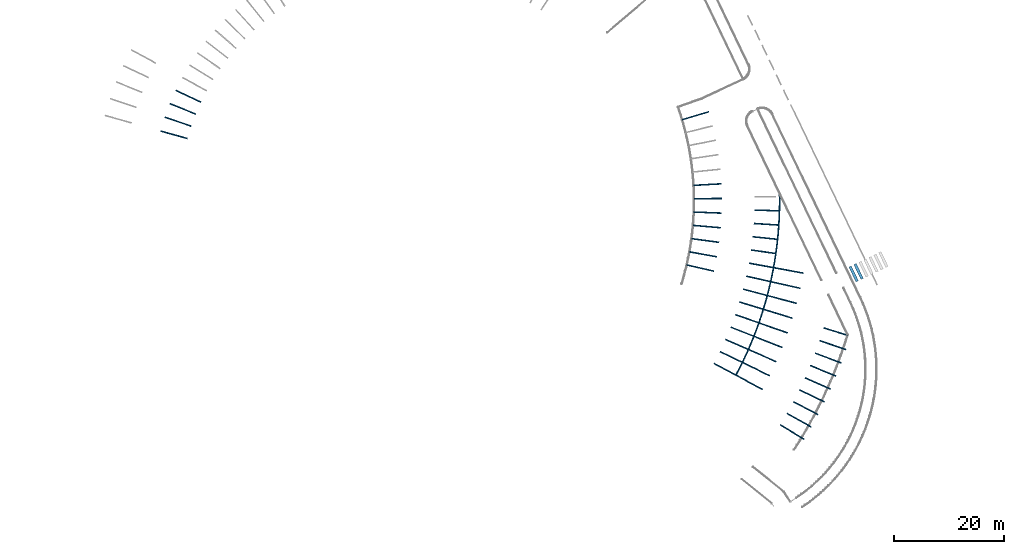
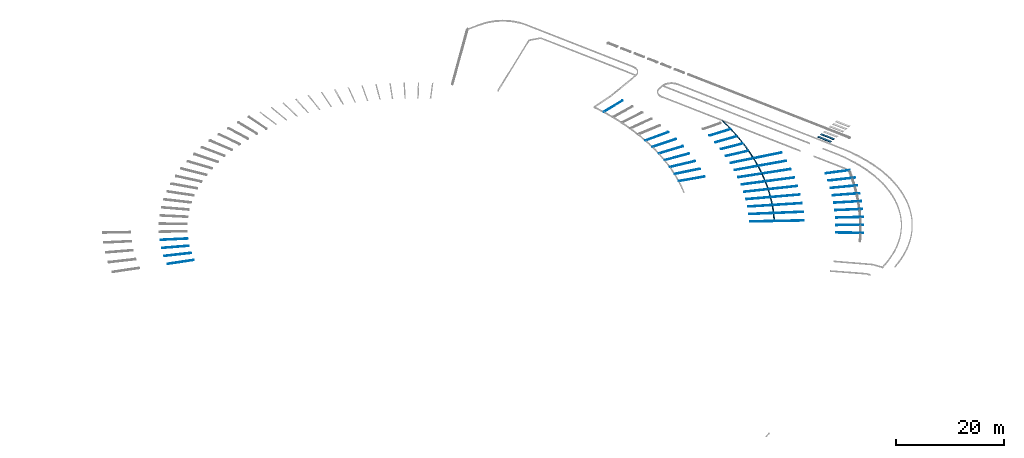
# One storey, part 90 of 157: 37 walls.
"""IFC2X3 building model written with IfcOpenShell, lengths in millimetres."""

import ifcopenshell
import ifcopenshell.guid

model = None  # the IFC model being written
_history = None  # IfcOwnerHistory: only IFC2X3 demands one
_inside = {}  # id of a spatial element -> (the spatial element, [elements in it])
_under = {}  # id of a project, library or spatial element -> (it, [spatial elements below it])
_declared = {}  # id of a project -> (the project, [libraries it declares])
_typed = {}  # id of a type object -> (the type object, [elements of that type])
_made_of = {}  # id of a material, layer set ... -> (it, [elements and type objects made of it])


def new_model(schema):
    """Start an empty IFC model of exactly this schema.

    Asked for "IFC4X3", IfcOpenShell would pick the latest addendum, in which some entities
    have other attributes; the version numbers below select the first issue.
    IFC2X3 requires an IfcOwnerHistory on every rooted entity: one is made here for all.
    """
    global model, _history
    if schema == "IFC4X3":
        model = ifcopenshell.file(schema_version=(4, 3, 0, 0))
    else:
        model = ifcopenshell.file(schema=schema)
    _inside.clear()
    _under.clear()
    _declared.clear()
    _typed.clear()
    _made_of.clear()
    _history = None
    if model.schema == "IFC2X3":
        org = make("IfcOrganization", Name="unknown")
        user = make(
            "IfcPersonAndOrganization",
            ThePerson=make("IfcPerson", FamilyName="unknown"),
            TheOrganization=org,
        )
        app = make(
            "IfcApplication",
            ApplicationDeveloper=org,
            Version="unknown",
            ApplicationFullName="unknown",
            ApplicationIdentifier="unknown",
        )
        _history = make(
            "IfcOwnerHistory",
            OwningUser=user,
            OwningApplication=app,
            ChangeAction="ADDED",
            CreationDate=0,
        )
    return model


def make(cls, **values):
    """One entity of the class cls with the attributes given. An attribute that is None is left unset."""
    return model.create_entity(
        cls, **{name: value for name, value in values.items() if value is not None}
    )


def entity(cls, *values):
    """Any entity or typed value of the class cls, its attributes in the order of the schema. None: left unset."""
    e = model.create_entity(cls)
    for i, value in enumerate(values):
        if value is not None:
            e[i] = value
    return e


def rooted(cls, **values):
    """An entity with a GlobalId (a new one), such as an element, a storey or a relation."""
    return make(cls, GlobalId=ifcopenshell.guid.new(), OwnerHistory=_history, **values)


def si_unit(unit_type, name, prefix=None):
    """IfcSIUnit, for example si_unit("LENGTHUNIT", "METRE", prefix="MILLI")."""
    return make("IfcSIUnit", UnitType=unit_type, Prefix=prefix, Name=name)


def converted_unit(unit_type, name, factor, base, dimensions=None, offset=None):
    """IfcConversionBasedUnit, such as the inch: factor (a typed value) times the base unit."""
    return make(
        "IfcConversionBasedUnit"
        if offset is None
        else "IfcConversionBasedUnitWithOffset",
        ConversionOffset=offset,
        Dimensions=None
        if dimensions is None
        else entity("IfcDimensionalExponents", *dimensions),
        UnitType=unit_type,
        Name=name,
        ConversionFactor=make(
            "IfcMeasureWithUnit", ValueComponent=factor, UnitComponent=base
        ),
    )


def derived_unit(unit_type, elements):
    """IfcDerivedUnit: a product of units, each with its exponent."""
    return make(
        "IfcDerivedUnit",
        Elements=[
            make("IfcDerivedUnitElement", Unit=unit, Exponent=power)
            for unit, power in elements
        ],
        UnitType=unit_type,
    )


def assignment(units):
    """IfcUnitAssignment: the units of a project."""
    return None if units is None else make("IfcUnitAssignment", Units=units)


def point(xyz):
    """IfcCartesianPoint."""
    return None if xyz is None else make("IfcCartesianPoint", Coordinates=xyz)


def direction(xyz):
    """IfcDirection."""
    return None if xyz is None else make("IfcDirection", DirectionRatios=xyz)


def frame(location, z_axis=None, x_axis=None):
    """IfcAxis2Placement3D, a coordinate frame: its origin and axes. An axis left out is left unset."""
    return make(
        "IfcAxis2Placement3D",
        Location=point(location),
        Axis=direction(z_axis),
        RefDirection=direction(x_axis),
    )


def frame_2d(location, x_axis=None):
    """IfcAxis2Placement2D, a coordinate frame in the plane: its origin and x axis."""
    return make(
        "IfcAxis2Placement2D", Location=point(location), RefDirection=direction(x_axis)
    )


def origin():
    """The frame at (0, 0, 0) with its axes left unset."""
    return frame((0.0, 0.0, 0.0))


def origin_2d_with_axis():
    """The frame at (0, 0) in the plane with the x axis (1, 0) written out."""
    return frame_2d((0.0, 0.0), x_axis=(1.0, 0.0))


def place(relative_to, where):
    """IfcLocalPlacement: puts the frame where relative to a parent placement (None: the world)."""
    return make(
        "IfcLocalPlacement", PlacementRelTo=relative_to, RelativePlacement=where
    )


def context(
    kind, dimensions, precision=None, world=None, true_north=None, identifier=None
):
    """IfcGeometricRepresentationContext, for example the 3D "Model" context."""
    return make(
        "IfcGeometricRepresentationContext",
        ContextIdentifier=identifier,
        ContextType=kind,
        CoordinateSpaceDimension=dimensions,
        Precision=precision,
        WorldCoordinateSystem=world,
        TrueNorth=true_north,
    )


def subcontext(parent, identifier, kind, view, scale=None):
    """IfcGeometricRepresentationSubContext, for example "Body" below "Model"."""
    return make(
        "IfcGeometricRepresentationSubContext",
        ContextIdentifier=identifier,
        ContextType=kind,
        ParentContext=parent,
        TargetScale=scale,
        TargetView=view,
    )


def project(units=None, contexts=None):
    """IfcProject with its units and contexts."""
    return rooted(
        "IfcProject",
        Name="project",
        RepresentationContexts=contexts,
        UnitsInContext=assignment(units),
    )


def spatial(cls, under=None, at=None, **own):
    """A site, building, storey or space (cls), placed at a placement, below another one or the project."""
    s = rooted(cls, ObjectPlacement=at, **own)
    if under is not None:
        _under.setdefault(under.id(), (under, []))[1].append(s)
    return s


def polyline(points):
    """IfcPolyline through the points."""
    return make("IfcPolyline", Points=[point(p) for p in points])


def circle_curve(where, radius):
    """IfcCircle in the frame where."""
    return make("IfcCircle", Position=where, Radius=radius)


def parameter(value):
    """IfcParameterValue: where a trimmed curve begins or ends, as a parameter of its basis curve."""
    return model.create_entity("IfcParameterValue", value)


def trimmed(basis, trim1, trim2, sense, master):
    """IfcTrimmedCurve: the piece of a basis curve between two trims."""
    return make(
        "IfcTrimmedCurve",
        BasisCurve=basis,
        Trim1=trim1,
        Trim2=trim2,
        SenseAgreement=sense,
        MasterRepresentation=master,
    )


def segment(curve, same_sense, transition):
    """IfcCompositeCurveSegment."""
    return make(
        "IfcCompositeCurveSegment",
        Transition=transition,
        SameSense=same_sense,
        ParentCurve=curve,
    )


def composite_curve(segments, self_intersect=None):
    """IfcCompositeCurve: segments joined end to end."""
    return make("IfcCompositeCurve", Segments=segments, SelfIntersect=self_intersect)


def profile(cls, at=None, kind="AREA", **sizes):
    """A parametric profile (cls). Its sizes go by their IFC names, for example OverallWidth=200.0."""
    return make(cls, ProfileType=kind, Position=at, **sizes)


def rectangle(**sizes):
    """IfcRectangleProfileDef."""
    return profile("IfcRectangleProfileDef", **sizes)


def outline(outer, holes=None, kind="AREA"):
    """IfcArbitraryClosedProfileDef: a profile drawn as a closed curve; with holes, ...WithVoids."""
    if holes is None:
        return make("IfcArbitraryClosedProfileDef", ProfileType=kind, OuterCurve=outer)
    return make(
        "IfcArbitraryProfileDefWithVoids",
        ProfileType=kind,
        OuterCurve=outer,
        InnerCurves=holes,
    )


def extrude(swept, where, along, depth):
    """IfcExtrudedAreaSolid: the profile swept, set in the frame where, extruded along a direction by depth."""
    return make(
        "IfcExtrudedAreaSolid",
        SweptArea=swept,
        Position=where,
        ExtrudedDirection=direction(along),
        Depth=depth,
    )


def shape(context_of_items, identifier, shape_type, items):
    """IfcShapeRepresentation: the items that make up one representation, for example the "Body"."""
    return make(
        "IfcShapeRepresentation",
        ContextOfItems=context_of_items,
        RepresentationIdentifier=identifier,
        RepresentationType=shape_type,
        Items=items,
    )


def material(Name=None, Category=None):
    """IfcMaterial."""
    return make("IfcMaterial", Name=Name, Category=Category)


def made_of(thing, what):
    """Note that an element or type object is made of a material, layer set ...; save() writes the relation."""
    if what is not None:
        _made_of.setdefault(what.id(), (what, []))[1].append(thing)
    return thing


def type_object(cls, material=None, **own):
    """A type object (cls), such as IfcWallType, which elements share."""
    return made_of(rooted(cls, **own), material)


def element(
    cls,
    number,
    at=None,
    inside=None,
    cuts=None,
    type_object=None,
    material=None,
    context=None,
    identifier="Body",
    shape_type=None,
    held_by="IfcProductDefinitionShape",
    body=None,
    shapes=None,
    **own,
):
    """One element of the class cls, such as IfcWall. Its Tag is "e" and its number.

    at: its placement. inside: the storey or other place that contains it. cuts: it is an
    opening in that element (IfcRelVoidsElement). A single representation is given by context,
    identifier, shape_type and body (its items); several are given by shapes. held_by: the class
    of the entity that holds the representations. save() writes the other relations.
    """
    e = rooted(cls, Tag="e%d" % number, ObjectPlacement=at, **own)
    if body is not None:
        shapes = [shape(context, identifier, shape_type, body)]
    if shapes is not None:
        e.Representation = make(held_by, Representations=shapes)
    if inside is not None:
        _inside.setdefault(inside.id(), (inside, []))[1].append(e)
    if cuts is not None:
        rooted(
            "IfcRelVoidsElement", RelatingBuildingElement=cuts, RelatedOpeningElement=e
        )
    if type_object is not None:
        _typed.setdefault(type_object.id(), (type_object, []))[1].append(e)
    return made_of(e, material)


def aggregate(whole, parts):
    """IfcRelAggregates: a whole, such as a stair, and the parts it consists of."""
    return rooted("IfcRelAggregates", RelatingObject=whole, RelatedObjects=parts)


def save(model, path):
    """Write the relations noted so far, then the file.

    IfcRelAggregates (storeys below a building ...), IfcRelContainedInSpatialStructure (elements
    in a storey), IfcRelDefinesByType, IfcRelAssociatesMaterial and IfcRelDeclares: one each for
    every whole, place, type object, material and project.
    """
    for whole, parts in _under.values():
        aggregate(whole, parts)
    for where, things in _inside.values():
        rooted(
            "IfcRelContainedInSpatialStructure",
            RelatedElements=things,
            RelatingStructure=where,
        )
    for kind, things in _typed.values():
        rooted("IfcRelDefinesByType", RelatedObjects=things, RelatingType=kind)
    for what, things in _made_of.values():
        rooted("IfcRelAssociatesMaterial", RelatedObjects=things, RelatingMaterial=what)
    for by, libraries in _declared.values():
        rooted("IfcRelDeclares", RelatingContext=by, RelatedDefinitions=libraries)
    model.write(path)


model = new_model("IFC2X3")

# Units and contexts
model_context = context("Model", 3, precision=0.01, world=origin(), true_north=direction((6.123031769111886e-17, 1.0)))
body_context = subcontext(model_context, "Body", "Model", "MODEL_VIEW")
ifc_project = project(units=[si_unit("LENGTHUNIT", "METRE", prefix="MILLI"), si_unit("AREAUNIT", "SQUARE_METRE"), si_unit("VOLUMEUNIT", "CUBIC_METRE"), converted_unit("PLANEANGLEUNIT", "DEGREE", entity("IfcRatioMeasure", 0.017453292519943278), si_unit("PLANEANGLEUNIT", "RADIAN"), dimensions=[0, 0, 0, 0, 0, 0, 0]), si_unit("MASSUNIT", "GRAM", prefix="KILO"), derived_unit("MASSDENSITYUNIT", [(si_unit("MASSUNIT", "GRAM", prefix="KILO"), 1), (si_unit("LENGTHUNIT", "METRE"), -3)]), derived_unit("MOMENTOFINERTIAUNIT", [(si_unit("LENGTHUNIT", "METRE"), 4)]), si_unit("TIMEUNIT", "SECOND"), si_unit("FREQUENCYUNIT", "HERTZ"), si_unit("THERMODYNAMICTEMPERATUREUNIT", "DEGREE_CELSIUS"), derived_unit("THERMALTRANSMITTANCEUNIT", [(si_unit("MASSUNIT", "GRAM", prefix="KILO"), 1), (si_unit("THERMODYNAMICTEMPERATUREUNIT", "KELVIN"), -1), (si_unit("TIMEUNIT", "SECOND"), -3)]), derived_unit("THERMALCONDUCTANCEUNIT", [(si_unit("MASSUNIT", "GRAM", prefix="KILO"), 1), (si_unit("LENGTHUNIT", "METRE"), 1), (si_unit("THERMODYNAMICTEMPERATUREUNIT", "KELVIN"), -1), (si_unit("TIMEUNIT", "SECOND"), -3)]), derived_unit("VOLUMETRICFLOWRATEUNIT", [(si_unit("LENGTHUNIT", "METRE"), 3), (si_unit("TIMEUNIT", "SECOND"), -1)]), derived_unit("MASSFLOWRATEUNIT", [(si_unit("MASSUNIT", "GRAM", prefix="KILO"), 1), (si_unit("TIMEUNIT", "SECOND"), -1)]), derived_unit("ROTATIONALFREQUENCYUNIT", [(si_unit("TIMEUNIT", "SECOND"), -1)]), si_unit("ELECTRICCURRENTUNIT", "AMPERE"), si_unit("ELECTRICVOLTAGEUNIT", "VOLT"), si_unit("POWERUNIT", "WATT"), converted_unit("FORCEUNIT", "KIP", entity("IfcRatioMeasure", 2.088543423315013e-05), si_unit("FORCEUNIT", "NEWTON"), dimensions=[1, 1, -2, 0, 0, 0, 0]), si_unit("ILLUMINANCEUNIT", "LUX"), si_unit("LUMINOUSFLUXUNIT", "LUMEN"), si_unit("LUMINOUSINTENSITYUNIT", "CANDELA"), derived_unit("USERDEFINED", [(si_unit("MASSUNIT", "GRAM", prefix="KILO"), -1), (si_unit("LENGTHUNIT", "METRE"), -2), (si_unit("TIMEUNIT", "SECOND"), 3), (si_unit("LUMINOUSFLUXUNIT", "LUMEN"), 1)]), derived_unit("USERDEFINED", [(si_unit("MASSUNIT", "GRAM", prefix="KILO"), 1), (si_unit("LENGTHUNIT", "METRE"), 3), (si_unit("TIMEUNIT", "SECOND"), -3), (si_unit("ELECTRICCURRENTUNIT", "AMPERE"), -2)]), derived_unit("USERDEFINED", [(si_unit("LENGTHUNIT", "METRE"), 2), (si_unit("TIMEUNIT", "SECOND"), -2)]), derived_unit("SOUNDPOWERUNIT", [(si_unit("MASSUNIT", "GRAM", prefix="KILO"), 1), (si_unit("LENGTHUNIT", "METRE"), 2), (si_unit("TIMEUNIT", "SECOND"), -3)]), derived_unit("SOUNDPRESSUREUNIT", [(si_unit("MASSUNIT", "GRAM", prefix="KILO"), 1), (si_unit("LENGTHUNIT", "METRE"), -1), (si_unit("TIMEUNIT", "SECOND"), -2)]), derived_unit("LINEARVELOCITYUNIT", [(si_unit("LENGTHUNIT", "METRE"), 1), (si_unit("TIMEUNIT", "SECOND"), -1)]), si_unit("PRESSUREUNIT", "PASCAL"), derived_unit("USERDEFINED", [(si_unit("LENGTHUNIT", "METRE"), -2), (si_unit("MASSUNIT", "GRAM", prefix="KILO"), 1), (si_unit("TIMEUNIT", "SECOND"), -2)]), derived_unit("LINEARFORCEUNIT", [(si_unit("MASSUNIT", "GRAM", prefix="KILO"), 1), (si_unit("LENGTHUNIT", "METRE"), 1), (si_unit("TIMEUNIT", "SECOND"), -2), (si_unit("LENGTHUNIT", "METRE"), -1)]), derived_unit("PLANARFORCEUNIT", [(si_unit("MASSUNIT", "GRAM", prefix="KILO"), 1), (si_unit("LENGTHUNIT", "METRE"), 1), (si_unit("TIMEUNIT", "SECOND"), -2), (si_unit("LENGTHUNIT", "METRE"), -2)]), derived_unit("SPECIFICHEATCAPACITYUNIT", [(si_unit("LENGTHUNIT", "METRE"), 2), (si_unit("TIMEUNIT", "SECOND"), -2), (si_unit("THERMODYNAMICTEMPERATUREUNIT", "KELVIN"), -1)]), derived_unit("VAPORPERMEABILITYUNIT", [(si_unit("TIMEUNIT", "SECOND"), 1), (si_unit("LENGTHUNIT", "METRE"), -1)]), derived_unit("DYNAMICVISCOSITYUNIT", [(si_unit("MASSUNIT", "GRAM", prefix="KILO"), 1), (si_unit("LENGTHUNIT", "METRE"), -1), (si_unit("TIMEUNIT", "SECOND"), -1)]), derived_unit("THERMALEXPANSIONCOEFFICIENTUNIT", [(si_unit("THERMODYNAMICTEMPERATUREUNIT", "KELVIN"), -1)])], contexts=[model_context])

# Site, building, storey
site_placement = place(None, frame((0.0, 0.0, 0.0), z_axis=(0.0, 0.0, 1.0), x_axis=(0.8191520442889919, 0.5735764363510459, 0.0)))
site = spatial("IfcSite", under=ifc_project, at=site_placement, Name="Default", CompositionType="ELEMENT")
building_placement = place(site_placement, origin())
building = spatial("IfcBuilding", under=site, at=building_placement, CompositionType="ELEMENT")
storey_placement = place(building_placement, origin())
storey = spatial("IfcBuildingStorey", under=building, at=storey_placement, Name="1.EG +0.00", CompositionType="ELEMENT", Elevation=-4.331468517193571e-12)

# Walls
ifc_material = material(Name="road_markirovka")
wall_type_1 = type_object("IfcWallType", Name="87", PredefinedType="NOTDEFINED", material=ifc_material)
wall_1_placement = place(storey_placement, frame((-70206.27636311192, -35537.50570777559, 400.0), z_axis=(0.0, 0.0, 1.0), x_axis=(0.0, 1.0, 0.0)))
element("IfcWall", 1, at=wall_1_placement, inside=storey, type_object=wall_type_1, material=ifc_material, Name="87:87", ObjectType="87:87", context=body_context, shape_type="SweptSolid", body=[
    extrude(rectangle(XDim=199.99999999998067, YDim=5000.0000000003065, at=frame_2d((-1.4850343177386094e-12, -1.5916157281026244e-12), x_axis=(1.0, 0.0))), frame((1996.3656750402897, -1662.788291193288, 0.0), z_axis=(0.0, 0.0, 1.0), x_axis=(0.6341881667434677, -0.7731787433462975, 0.0)), (0.0, 0.0, 1.0), 9.999999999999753),
])
wall_type_2 = type_object("IfcWallType", Name="84", PredefinedType="NOTDEFINED", material=ifc_material)
wall_2_placement = place(storey_placement, frame((-63741.66590821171, -31538.287492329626, 400.0), z_axis=(0.0, 0.0, 1.0), x_axis=(0.0, 1.0, 0.0)))
element("IfcWall", 2, at=wall_2_placement, inside=storey, type_object=wall_type_2, material=ifc_material, Name="84:84", ObjectType="84:84", context=body_context, shape_type="SweptSolid", body=[
    extrude(rectangle(XDim=199.99999999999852, YDim=5000.000000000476, at=frame_2d((1.0871303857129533e-12, 1.8189894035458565e-12), x_axis=(1.0, 0.0))), frame((2219.819776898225, -1327.9104421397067, 0.0), z_axis=(0.0, 0.0, 1.0), x_axis=(0.4964413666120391, -0.8680702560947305, 0.0)), (0.0, 0.0, 1.0), 9.999999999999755),
])
wall_type_3 = type_object("IfcWallType", Name="86", PredefinedType="NOTDEFINED", material=ifc_material)
wall_3_placement = place(storey_placement, frame((-68135.81142621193, -34097.59784832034, 400.0), z_axis=(0.0, 0.0, 1.0), x_axis=(0.0, 1.0, 0.0)))
element("IfcWall", 3, at=wall_3_placement, inside=storey, type_object=wall_type_3, material=ifc_material, Name="86:86", ObjectType="86:86", context=body_context, shape_type="SweptSolid", body=[
    extrude(rectangle(XDim=200.00000000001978, YDim=5000.0000000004, at=frame_2d((-3.517186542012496e-12, 2.5011104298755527e-12), x_axis=(1.0, 0.0))), frame((2077.399309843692, -1555.8932232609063, 0.0), z_axis=(0.0, 0.0, 1.0), x_axis=(0.5900630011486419, -0.8073572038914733, 0.0)), (0.0, 0.0, 1.0), 9.999999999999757),
])
wall_type_4 = type_object("IfcWallType", Name="86", PredefinedType="NOTDEFINED", material=ifc_material)
wall_4_placement = place(storey_placement, frame((7846.057088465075, -133540.67406010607, 450.0), z_axis=(0.0, 0.0, 1.0), x_axis=(0.0, 1.0, 0.0)))
element("IfcWall", 4, at=wall_4_placement, inside=storey, type_object=wall_type_4, material=ifc_material, Name="86 203221:86 203221", ObjectType="86 203221:86 203221", context=body_context, shape_type="SweptSolid", body=[
    extrude(rectangle(XDim=199.99999999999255, YDim=4574.509043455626, at=frame_2d((8.739675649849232e-13, -6.821210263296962e-13), x_axis=(1.0, 0.0))), frame((1865.7149275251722, -1484.6573900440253, 0.0), z_axis=(0.0, 0.0, 1.0), x_axis=(0.6146121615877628, -0.788829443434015, 0.0)), (0.0, 0.0, 1.0), 9.999999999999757),
])
wall_type_5 = type_object("IfcWallType", Name="95", PredefinedType="NOTDEFINED", material=ifc_material)
wall_5_placement = place(storey_placement, frame((2037.8307186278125, -100073.11718111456, 450.0)))
element("IfcWall", 5, at=wall_5_placement, inside=storey, type_object=wall_type_5, material=ifc_material, Name="95:95", ObjectType="95:95", context=body_context, shape_type="SweptSolid", body=[
    extrude(rectangle(XDim=200.0000000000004, YDim=4999.999999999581, at=frame_2d((-7.034373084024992e-12, -5.229594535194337e-12), x_axis=(1.0, 0.0))), frame((2115.774671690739, 1500.2014102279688, 0.0), z_axis=(0.0, 0.0, 1.0), x_axis=(0.5671355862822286, 0.8236244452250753, 0.0)), (0.0, 0.0, 1.0), 9.999999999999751),
])
wall_type_6 = type_object("IfcWallType", Name="96", PredefinedType="NOTDEFINED", material=ifc_material)
wall_6_placement = place(storey_placement, frame((3368.7482403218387, -97851.19907409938, 450.0)))
element("IfcWall", 6, at=wall_6_placement, inside=storey, type_object=wall_type_6, material=ifc_material, Name="96:96", ObjectType="96:96", context=body_context, shape_type="SweptSolid", body=[
    extrude(rectangle(XDim=199.9999999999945, YDim=4999.999999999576, at=frame_2d((-6.636469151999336e-12, -5.4569682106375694e-12), x_axis=(1.0, 0.0))), frame((2176.254035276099, 1404.349099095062, 0.0), z_axis=(0.0, 0.0, 1.0), x_axis=(0.5277639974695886, 0.8493910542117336, 0.0)), (0.0, 0.0, 1.0), 9.999999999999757),
])
wall_type_7 = type_object("IfcWallType", Name="94", PredefinedType="NOTDEFINED", material=ifc_material)
wall_7_placement = place(storey_placement, frame((613.1265773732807, -102223.90809039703, 450.0)))
element("IfcWall", 7, at=wall_7_placement, inside=storey, type_object=wall_type_7, material=ifc_material, Name="94:94", ObjectType="94:94", context=body_context, shape_type="SweptSolid", body=[
    extrude(rectangle(XDim=200.00000000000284, YDim=4999.999999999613, at=frame_2d((7.034373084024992e-12, 5.002220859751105e-12), x_axis=(1.0, 0.0))), frame((2050.610898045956, 1592.7322152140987, 0.0), z_axis=(0.0, 0.0, 1.0), x_axis=(0.6052515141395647, 0.7960342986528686, 0.0)), (0.0, 0.0, 1.0), 9.999999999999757),
])
wall_type_8 = type_object("IfcWallType", Name="93", PredefinedType="NOTDEFINED", material=ifc_material)
wall_8_placement = place(storey_placement, frame((-902.2098312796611, -104298.80986453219, 450.0)))
element("IfcWall", 8, at=wall_8_placement, inside=storey, type_object=wall_type_8, material=ifc_material, Name="93:93", ObjectType="93:93", context=body_context, shape_type="SweptSolid", body=[
    extrude(rectangle(XDim=200.00000000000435, YDim=4999.999999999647, at=frame_2d((-4.945377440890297e-12, -7.503331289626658e-12), x_axis=(1.0, 0.0))), frame((1980.906989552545, 1681.7366471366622, 0.0), z_axis=(0.0, 0.0, 1.0), x_axis=(0.6420273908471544, 0.7666817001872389, 0.0)), (0.0, 0.0, 1.0), 9.999999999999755),
])
wall_type_9 = type_object("IfcWallType", Name="92", PredefinedType="NOTDEFINED", material=ifc_material)
wall_9_placement = place(storey_placement, frame((-2504.8234916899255, -106293.22858769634, 450.0)))
element("IfcWall", 9, at=wall_9_placement, inside=storey, type_object=wall_type_9, material=ifc_material, Name="92:92", ObjectType="92:92", context=body_context, shape_type="SweptSolid", body=[
    extrude(rectangle(XDim=199.9999999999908, YDim=4999.9999999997, at=frame_2d((-3.517186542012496e-12, -8.86757334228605e-12), x_axis=(1.0, 0.0))), frame((1906.8172734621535, 1767.0176466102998, 0.0), z_axis=(0.0, 0.0, 1.0), x_axis=(0.6773817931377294, 0.7356316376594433, 0.0)), (0.0, 0.0, 1.0), 9.999999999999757),
])
wall_type_10 = type_object("IfcWallType", Name="91", PredefinedType="NOTDEFINED", material=ifc_material)
wall_10_placement = place(storey_placement, frame((-4191.166152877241, -108202.74853677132, 450.0), z_axis=(0.0, 0.0, 1.0), x_axis=(0.0, 1.0, 0.0)))
element("IfcWall", 10, at=wall_10_placement, inside=storey, type_object=wall_type_10, material=ifc_material, Name="91:91", ObjectType="91:91", context=body_context, shape_type="SweptSolid", body=[
    extrude(rectangle(XDim=199.99999999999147, YDim=4999.99999999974, at=frame_2d((-1.0828671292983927e-11, -1.3415046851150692e-11), x_axis=(1.0, 0.0))), frame((1848.3863980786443, -1828.5057873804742, 0.0), z_axis=(0.0, 0.0, 1.0), x_axis=(0.7029528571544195, -0.7112364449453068, 0.0)), (0.0, 0.0, 1.0), 9.999999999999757),
])
wall_type_11 = type_object("IfcWallType", Name="90", PredefinedType="NOTDEFINED", material=ifc_material)
wall_11_placement = place(storey_placement, frame((-5957.504184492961, -110023.14195793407, 450.0), z_axis=(0.0, 0.0, 1.0), x_axis=(0.0, 1.0, 0.0)))
element("IfcWall", 11, at=wall_11_placement, inside=storey, type_object=wall_type_11, material=ifc_material, Name="90:90", ObjectType="90:90", context=body_context, shape_type="SweptSolid", body=[
    extrude(rectangle(XDim=199.99999999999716, YDim=4999.999999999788, at=frame_2d((4.604316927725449e-12, 7.503331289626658e-12), x_axis=(1.0, 0.0))), frame((1925.6627478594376, -1746.1459160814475, 0.0), z_axis=(0.0, 0.0, 1.0), x_axis=(0.6687177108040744, -0.7435163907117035, 0.0)), (0.0, 0.0, 1.0), 9.999999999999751),
])
wall_type_12 = type_object("IfcWallType", Name="00", PredefinedType="NOTDEFINED", material=ifc_material)
wall_12_placement = place(storey_placement, frame((-10062.809167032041, -127769.2934301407, 410.0)))
element("IfcWall", 12, at=wall_12_placement, inside=storey, type_object=wall_type_12, material=ifc_material, Name="00:00", ObjectType="00:00", context=body_context, shape_type="SweptSolid", body=[
    extrude(outline(composite_curve([segment(polyline([(-4391.9522964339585, -16405.48534310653), (-4191.952296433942, -16405.485343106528)]), True, "CONTINUOUS"), segment(trimmed(circle_curve(frame_2d((62708.04770356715, -16405.485342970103), x_axis=(-1.0, 0.0)), 66900.00000000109), [parameter(330.6782123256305)], [parameter(0.0)], True, "PARAMETER"), False, "CONTINUOUS"), segment(polyline([(4379.067406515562, 16356.383613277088), (4204.837186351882, 16454.58707293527)]), True, "CONTINUOUS"), segment(trimmed(circle_curve(frame_2d((62708.04770356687, -16405.48534297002), x_axis=(-0.8718809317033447, 0.48971791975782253)), 67100.00000000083), [parameter(359.99999999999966)], [parameter(29.322042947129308)], True, "PARAMETER"), True, "CONTINUOUS")], self_intersect=False)), frame((12771.067709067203, 11346.693604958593, 0.0), z_axis=(0.0, 0.0, 1.0), x_axis=(-0.8315261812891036, 0.5554855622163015, 0.0)), (0.0, 0.0, 1.0), 9.999999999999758),
])
wall_type_13 = type_object("IfcWallType", Name="87", PredefinedType="NOTDEFINED", material=ifc_material)
wall_13_placement = place(storey_placement, frame((-12184.371040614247, -132677.5910654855, 410.0), z_axis=(0.0, 0.0, 1.0), x_axis=(0.0, 1.0, 0.0)))
element("IfcWall", 13, at=wall_13_placement, inside=storey, type_object=wall_type_13, material=ifc_material, Name="87 206443:87 206443", ObjectType="87 206443:87 206443", context=body_context, shape_type="SweptSolid", body=[
    extrude(rectangle(XDim=199.99999999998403, YDim=10000.000004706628, at=origin_2d_with_axis()), frame((4506.186165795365, -2347.377587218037, 0.0), z_axis=(0.0, 0.0, 1.0), x_axis=(0.45163142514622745, -0.8922046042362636, 0.0)), (0.0, 0.0, 1.0), 9.999999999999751),
])
wall_type_14 = type_object("IfcWallType", Name="98", PredefinedType="NOTDEFINED", material=ifc_material)
wall_14_placement = place(storey_placement, frame((9836.609502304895, -107854.50099705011, 410.0)))
element("IfcWall", 14, at=wall_14_placement, inside=storey, type_object=wall_type_14, material=ifc_material, Name="98 206450:98 206450", ObjectType="98 206450:98 206450", context=body_context, shape_type="SweptSolid", body=[
    extrude(rectangle(XDim=199.99999999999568, YDim=4399.925261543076, at=frame_2d((-5.6843418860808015e-12, -6.821210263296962e-12), x_axis=(1.0, 0.0))), frame((1827.1841175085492, 1390.0209054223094, 0.0), z_axis=(0.0, 0.0, 1.0), x_axis=(0.595315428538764, 0.8034920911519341, 0.0)), (0.0, 0.0, 1.0), 9.999999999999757),
])
wall_type_15 = type_object("IfcWallType", Name="96", PredefinedType="NOTDEFINED", material=ifc_material)
wall_15_placement = place(storey_placement, frame((6802.270299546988, -111888.01418344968, 410.0)))
element("IfcWall", 15, at=wall_15_placement, inside=storey, type_object=wall_type_15, material=ifc_material, Name="96 206502:96 206502", ObjectType="96 206502:96 206502", context=body_context, shape_type="SweptSolid", body=[
    extrude(rectangle(XDim=200.0000000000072, YDim=4399.925261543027, at=frame_2d((-4.945377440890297e-12, 5.6843418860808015e-12), x_axis=(1.0, 0.0))), frame((1726.6260871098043, 1517.9745395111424, 0.0), z_axis=(0.0, 0.0, 1.0), x_axis=(0.6556795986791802, 0.7550392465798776, 0.0)), (0.0, 0.0, 1.0), 9.999999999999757),
])
wall_type_16 = type_object("IfcWallType", Name="97", PredefinedType="NOTDEFINED", material=ifc_material)
wall_16_placement = place(storey_placement, frame((8355.91042960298, -109902.69116973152, 410.0)))
element("IfcWall", 16, at=wall_16_placement, inside=storey, type_object=wall_type_16, material=ifc_material, Name="97 206506:97 206506", ObjectType="97 206506:97 206506", context=body_context, shape_type="SweptSolid", body=[
    extrude(rectangle(XDim=200.00000000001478, YDim=4399.92526154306, at=frame_2d((-8.121503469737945e-12, -3.865352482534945e-12), x_axis=(1.0, 0.0))), frame((1778.237392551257, 1455.0879027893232, 0.0), z_axis=(0.0, 0.0, 1.0), x_axis=(0.6259664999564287, 0.779849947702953, 0.0)), (0.0, 0.0, 1.0), 9.999999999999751),
])
wall_type_17 = type_object("IfcWallType", Name="94", PredefinedType="NOTDEFINED", material=ifc_material)
wall_17_placement = place(storey_placement, frame((3485.584817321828, -119646.15457201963, 410.0), z_axis=(0.0, 0.0, 1.0), x_axis=(0.0, 1.0, 0.0)))
element("IfcWall", 17, at=wall_17_placement, inside=storey, type_object=wall_type_17, material=ifc_material, Name="94 206508:94 206508", ObjectType="94 206508:94 206508", context=body_context, shape_type="SweptSolid", body=[
    extrude(rectangle(XDim=199.99999999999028, YDim=9999.997272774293, at=frame_2d((2.7000623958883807e-13, -4.547473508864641e-13), x_axis=(1.0, 0.0))), frame((3630.7815723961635, -3581.523447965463, 0.0), z_axis=(0.0, 0.0, 1.0), x_axis=(0.7020625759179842, -0.712115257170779, 0.0)), (0.0, 0.0, 1.0), 9.999999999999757),
])
wall_type_18 = type_object("IfcWallType", Name="95", PredefinedType="NOTDEFINED", material=ifc_material)
wall_18_placement = place(storey_placement, frame((5178.017147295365, -113807.49515252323, 410.0)))
element("IfcWall", 18, at=wall_18_placement, inside=storey, type_object=wall_type_18, material=ifc_material, Name="95 206509:95 206509", ObjectType="95 206509:95 206509", context=body_context, shape_type="SweptSolid", body=[
    extrude(rectangle(XDim=199.99999999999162, YDim=4399.925261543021, at=frame_2d((1.0018652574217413e-11, 1.4551915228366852e-11), x_axis=(1.0, 0.0))), frame((1672.4275375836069, 1578.5865837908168, 0.0), z_axis=(0.0, 0.0, 1.0), x_axis=(0.6844102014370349, 0.7290971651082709, 0.0)), (0.0, 0.0, 1.0), 9.999999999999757),
])
wall_type_19 = type_object("IfcWallType", Name="92", PredefinedType="NOTDEFINED", material=ifc_material)
wall_19_placement = place(storey_placement, frame((-93.57498621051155, -123423.13099296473, 410.0), z_axis=(0.0, 0.0, 1.0), x_axis=(0.0, 1.0, 0.0)))
element("IfcWall", 19, at=wall_19_placement, inside=storey, type_object=wall_type_19, material=ifc_material, Name="92 206510:92 206510", ObjectType="92 206510:92 206510", context=body_context, shape_type="SweptSolid", body=[
    extrude(rectangle(XDim=200.00000000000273, YDim=10000.574943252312, at=frame_2d((6.0893512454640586e-12, 5.9117155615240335e-12), x_axis=(1.0, 0.0))), frame((3886.129004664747, -3301.011258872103, 0.0), z_axis=(0.0, 0.0, 1.0), x_axis=(0.6448794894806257, -0.7642842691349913, 0.0)), (0.0, 0.0, 1.0), 9.999999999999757),
])
wall_type_20 = type_object("IfcWallType", Name="91", PredefinedType="NOTDEFINED", material=ifc_material)
wall_20_placement = place(storey_placement, frame((-1974.9393066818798, -125188.2223300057, 410.0), z_axis=(0.0, 0.0, 1.0), x_axis=(0.0, 1.0, 0.0)))
element("IfcWall", 20, at=wall_20_placement, inside=storey, type_object=wall_type_20, material=ifc_material, Name="91 206513:91 206513", ObjectType="91 206513:91 206513", context=body_context, shape_type="SweptSolid", body=[
    extrude(rectangle(XDim=200.0, YDim=10000.719804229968, at=frame_2d((9.450218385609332e-13, -4.547473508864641e-13), x_axis=(1.0, 0.0))), frame((4005.1157781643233, -3153.1716671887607, 0.0), z_axis=(0.0, 0.0, 1.0), x_axis=(0.614816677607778, -0.7886700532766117, 0.0)), (0.0, 0.0, 1.0), 9.999999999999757),
])
wall_type_21 = type_object("IfcWallType", Name="90", PredefinedType="NOTDEFINED", material=ifc_material)
wall_21_placement = place(storey_placement, frame((-3913.7645350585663, -126867.47076338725, 410.0), z_axis=(0.0, 0.0, 1.0), x_axis=(0.0, 1.0, 0.0)))
element("IfcWall", 21, at=wall_21_placement, inside=storey, type_object=wall_type_21, material=ifc_material, Name="90 206516:90 206516", ObjectType="90 206516:90 206516", context=body_context, shape_type="SweptSolid", body=[
    extrude(rectangle(XDim=199.99999999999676, YDim=10000.768344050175, at=frame_2d((-1.3500311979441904e-13, -1.0459189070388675e-11), x_axis=(1.0, 0.0))), frame((4118.065476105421, -3000.5747003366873, 0.0), z_axis=(0.0, 0.0, 1.0), x_axis=(0.5838326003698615, -0.8118740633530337, 0.0)), (0.0, 0.0, 1.0), 9.999999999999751),
])
wall_type_22 = type_object("IfcWallType", Name="93", PredefinedType="NOTDEFINED", material=ifc_material)
wall_22_placement = place(storey_placement, frame((1727.5093164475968, -121574.84917514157, 410.0), z_axis=(0.0, 0.0, 1.0), x_axis=(0.0, 1.0, 0.0)))
element("IfcWall", 22, at=wall_22_placement, inside=storey, type_object=wall_type_22, material=ifc_material, Name="93 206517:93 206517", ObjectType="93 206517:93 206517", context=body_context, shape_type="SweptSolid", body=[
    extrude(rectangle(XDim=200.00000000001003, YDim=10000.333978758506, at=frame_2d((3.247180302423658e-12, 8.640199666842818e-12), x_axis=(1.0, 0.0))), frame((3761.2872205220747, -3443.8678154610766, 0.0), z_axis=(0.0, 0.0, 1.0), x_axis=(0.6739759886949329, -0.7387532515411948, 0.0)), (0.0, 0.0, 1.0), 9.999999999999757),
])
wall_type_23 = type_object("IfcWallType", Name="88", PredefinedType="NOTDEFINED", material=ifc_material)
wall_23_placement = place(storey_placement, frame((-7952.095120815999, -129958.47951135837, 410.0), z_axis=(0.0, 0.0, 1.0), x_axis=(0.0, 1.0, 0.0)))
element("IfcWall", 23, at=wall_23_placement, inside=storey, type_object=wall_type_23, material=ifc_material, Name="88:88", ObjectType="88:88", context=body_context, shape_type="SweptSolid", body=[
    extrude(rectangle(XDim=200.00000000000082, YDim=10000.576313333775, at=frame_2d((-1.8900436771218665e-12, 9.094947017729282e-13), x_axis=(1.0, 0.0))), frame((4325.172550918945, -2682.047945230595, 0.0), z_axis=(0.0, 0.0, 1.0), x_axis=(0.5192876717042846, -0.8545995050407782, 0.0)), (0.0, 0.0, 1.0), 9.999999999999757),
])
wall_type_24 = type_object("IfcWallType", Name="87", PredefinedType="NOTDEFINED", material=ifc_material)
wall_24_placement = place(storey_placement, frame((-10045.549285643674, -131365.59652626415, 410.0), z_axis=(0.0, 0.0, 1.0), x_axis=(0.0, 1.0, 0.0)))
element("IfcWall", 24, at=wall_24_placement, inside=storey, type_object=wall_type_24, material=ifc_material, Name="87 206522:87 206522", ObjectType="87 206522:87 206522", context=body_context, shape_type="SweptSolid", body=[
    extrude(rectangle(XDim=200.00000000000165, YDim=10000.336031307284, at=frame_2d((-2.8421709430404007e-12, 1.3642420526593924e-12), x_axis=(1.0, 0.0))), frame((4419.013784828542, -2516.6050020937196, 0.0), z_axis=(0.0, 0.0, 1.0), x_axis=(0.48582353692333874, -0.8740569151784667, 0.0)), (0.0, 0.0, 1.0), 9.999999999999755),
])
wall_type_25 = type_object("IfcWallType", Name="86", PredefinedType="NOTDEFINED", material=ifc_material)
wall_25_placement = place(storey_placement, frame((5916.263690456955, -135421.57170506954, 450.0), z_axis=(0.0, 0.0, 1.0), x_axis=(0.0, 1.0, 0.0)))
element("IfcWall", 25, at=wall_25_placement, inside=storey, type_object=wall_type_25, material=ifc_material, Name="86 206523:86 206523", ObjectType="86 206523:86 206523", context=body_context, shape_type="SweptSolid", body=[
    extrude(rectangle(XDim=199.99999999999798, YDim=4999.9999999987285, at=frame_2d((5.8832938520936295e-12, 1.7053025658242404e-11), x_axis=(1.0, 0.0))), frame((2077.4175876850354, -1555.8675395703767, 0.0), z_axis=(0.0, 0.0, 1.0), x_axis=(0.5900524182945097, -0.8073649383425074, 0.0)), (0.0, 0.0, 1.0), 9.999999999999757),
])
wall_type_26 = type_object("IfcWallType", Name="84", PredefinedType="NOTDEFINED", material=ifc_material)
wall_26_placement = place(storey_placement, frame((1927.2174240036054, -138319.0428523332, 450.0), z_axis=(0.0, 0.0, 1.0), x_axis=(0.0, 1.0, 0.0)))
element("IfcWall", 26, at=wall_26_placement, inside=storey, type_object=wall_type_26, material=ifc_material, Name="84 206525:84 206525", ObjectType="84 206525:84 206525", context=body_context, shape_type="SweptSolid", body=[
    extrude(rectangle(XDim=199.9999999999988, YDim=4999.999999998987, at=frame_2d((-8.739675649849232e-13, 6.821210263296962e-13), x_axis=(1.0, 0.0))), frame((2159.2430721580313, -1432.414659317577, 0.0), z_axis=(0.0, 0.0, 1.0), x_axis=(0.5392808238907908, -0.8421259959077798, 0.0)), (0.0, 0.0, 1.0), 9.999999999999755),
])
wall_type_27 = type_object("IfcWallType", Name="89", PredefinedType="NOTDEFINED", material=ifc_material)
wall_27_placement = place(storey_placement, frame((-5907.145459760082, -128458.35316256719, 410.0), z_axis=(0.0, 0.0, 1.0), x_axis=(0.0, 1.0, 0.0)))
element("IfcWall", 27, at=wall_27_placement, inside=storey, type_object=wall_type_27, material=ifc_material, Name="89:89", ObjectType="89:89", context=body_context, shape_type="SweptSolid", body=[
    extrude(rectangle(XDim=200.00000000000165, YDim=10000.720489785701, at=frame_2d((-3.389288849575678e-12, -8.640199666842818e-12), x_axis=(1.0, 0.0))), frame((4224.8054107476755, -2843.4534262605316, 0.0), z_axis=(0.0, 0.0, 1.0), x_axis=(0.5519736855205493, -0.8338615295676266, 0.0)), (0.0, 0.0, 1.0), 9.999999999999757),
])
wall_type_28 = type_object("IfcWallType", Name="84", PredefinedType="NOTDEFINED", material=ifc_material)
wall_28_placement = place(storey_placement, frame((-128.25883259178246, -139668.5129811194, 450.0), z_axis=(0.0, 0.0, 1.0), x_axis=(0.0, 1.0, 0.0)))
element("IfcWall", 28, at=wall_28_placement, inside=storey, type_object=wall_type_28, material=ifc_material, Name="84 206530:84 206530", ObjectType="84 206530:84 206530", context=body_context, shape_type="SweptSolid", body=[
    extrude(rectangle(XDim=199.99999999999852, YDim=4999.999999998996, at=frame_2d((6.501466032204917e-12, 1.659827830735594e-11), x_axis=(1.0, 0.0))), frame((2197.1083257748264, -1368.6244662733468, 0.0), z_axis=(0.0, 0.0, 1.0), x_axis=(0.5131170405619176, -0.8583186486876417, 0.0)), (0.0, 0.0, 1.0), 9.999999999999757),
])
wall_type_29 = type_object("IfcWallType", Name="83", PredefinedType="NOTDEFINED", material=ifc_material)
wall_29_placement = place(storey_placement, frame((-2221.7884438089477, -140950.081648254, 450.0), z_axis=(0.0, 0.0, 1.0), x_axis=(0.0, 1.0, 0.0)))
element("IfcWall", 29, at=wall_29_placement, inside=storey, type_object=wall_type_29, material=ifc_material, Name="83 206532:83 206532", ObjectType="83 206532:83 206532", context=body_context, shape_type="SweptSolid", body=[
    extrude(rectangle(XDim=200.0000000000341, YDim=4999.999999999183, at=frame_2d((-1.4210854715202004e-12, 9.094947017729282e-13), x_axis=(1.0, 0.0))), frame((2232.8934768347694, -1303.5385340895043, 0.0), z_axis=(0.0, 0.0, 1.0), x_axis=(0.48646746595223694, -0.8736986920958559, 0.0)), (0.0, 0.0, 1.0), 9.999999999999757),
])
wall_type_30 = type_object("IfcWallType", Name="85", PredefinedType="NOTDEFINED", material=ifc_material)
wall_30_placement = place(storey_placement, frame((3942.694312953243, -136902.94886675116, 450.0), z_axis=(0.0, 0.0, 1.0), x_axis=(0.0, 1.0, 0.0)))
element("IfcWall", 30, at=wall_30_placement, inside=storey, type_object=wall_type_30, material=ifc_material, Name="85:85", ObjectType="85:85", context=body_context, shape_type="SweptSolid", body=[
    extrude(rectangle(XDim=199.9999999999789, YDim=4999.999999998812, at=frame_2d((9.542588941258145e-12, 3.865352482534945e-12), x_axis=(1.0, 0.0))), frame((2119.333564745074, -1494.8487201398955, 0.0), z_axis=(0.0, 0.0, 1.0), x_axis=(0.564934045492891, -0.8251360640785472, 0.0)), (0.0, 0.0, 1.0), 9.999999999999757),
])
wall_type_31 = type_object("IfcWallType", Name="82", PredefinedType="NOTDEFINED", material=ifc_material)
wall_31_placement = place(storey_placement, frame((-4351.389369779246, -142162.53553428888, 450.0), z_axis=(0.0, 0.0, 1.0), x_axis=(0.0, 1.0, 0.0)))
element("IfcWall", 31, at=wall_31_placement, inside=storey, type_object=wall_type_31, material=ifc_material, Name="82:82", ObjectType="82:82", context=body_context, shape_type="SweptSolid", body=[
    extrude(rectangle(XDim=199.99999999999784, YDim=4999.999999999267, at=frame_2d((-3.993250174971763e-12, -1.7280399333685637e-11), x_axis=(1.0, 0.0))), frame((2266.5646459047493, -1237.2184825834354, 0.0), z_axis=(0.0, 0.0, 1.0), x_axis=(0.45935733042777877, -0.8882515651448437, 0.0)), (0.0, 0.0, 1.0), 9.999999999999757),
])
wall_type_32 = type_object("IfcWallType", Name="81", PredefinedType="NOTDEFINED", material=ifc_material)
wall_32_placement = place(storey_placement, frame((-6515.045420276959, -143304.7267538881, 450.0), z_axis=(0.0, 0.0, 1.0), x_axis=(0.0, 1.0, 0.0)))
element("IfcWall", 32, at=wall_32_placement, inside=storey, type_object=wall_type_32, material=ifc_material, Name="81 206538:81 206538", ObjectType="81 206538:81 206538", context=body_context, shape_type="SweptSolid", body=[
    extrude(rectangle(XDim=199.9999999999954, YDim=4999.999999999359, at=frame_2d((-4.739320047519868e-12, -7.275957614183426e-12), x_axis=(1.0, 0.0))), frame((2298.089954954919, -1169.727099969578, 0.0), z_axis=(0.0, 0.0, 1.0), x_axis=(0.4318123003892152, -0.9019634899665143, 0.0)), (0.0, 0.0, 1.0), 9.999999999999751),
])
wall_type_33 = type_object("IfcWallType", Name="81", PredefinedType="NOTDEFINED", material=ifc_material)
wall_33_placement = place(storey_placement, frame((-8710.708163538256, -144375.57394258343, 450.0), z_axis=(0.0, 0.0, 1.0), x_axis=(0.0, 1.0, 0.0)))
element("IfcWall", 33, at=wall_33_placement, inside=storey, type_object=wall_type_33, material=ifc_material, Name="81 206540:81 206540", ObjectType="81 206540:81 206540", context=body_context, shape_type="SweptSolid", body=[
    extrude(rectangle(XDim=200.00000000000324, YDim=4999.999999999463, at=frame_2d((4.760636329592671e-13, 0.0), x_axis=(1.0, 0.0))), frame((2327.43955753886, -1101.1282834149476, 0.0), z_axis=(0.0, 0.0, 1.0), x_axis=(0.40385845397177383, -0.9148214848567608, 0.0)), (0.0, 0.0, 1.0), 9.999999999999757),
])
wall_type_34 = type_object("IfcWallType", Name="01", PredefinedType="NOTDEFINED", material=ifc_material)
wall_34_placement = place(storey_placement, frame((8521.021511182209, -85851.77304759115, 450.0)))
element("IfcWall", 34, at=wall_34_placement, inside=storey, type_object=wall_type_34, material=ifc_material, Name="01:01", ObjectType="01:01", context=body_context, shape_type="SweptSolid", body=[
    extrude(rectangle(XDim=199.99999999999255, YDim=4999.999999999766, at=frame_2d((8.192557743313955e-12, 2.7284841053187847e-12), x_axis=(1.0, 0.0))), frame((2404.0770090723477, 882.9233390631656, 0.0), z_axis=(0.0, 0.0, 1.0), x_axis=(0.31520843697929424, 0.9490224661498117, 0.0)), (0.0, 0.0, 1.0), 9.999999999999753),
])
wall_type_35 = type_object("IfcWallType", Name="85", PredefinedType="NOTDEFINED", material=ifc_material)
wall_35_placement = place(storey_placement, frame((-65978.70133332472, -32763.13940935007, 400.0), z_axis=(0.0, 0.0, 1.0), x_axis=(0.0, 1.0, 0.0)))
element("IfcWall", 35, at=wall_35_placement, inside=storey, type_object=wall_type_35, material=ifc_material, Name="85 206599:85 206599", ObjectType="85 206599:85 206599", context=body_context, shape_type="SweptSolid", body=[
    extrude(rectangle(XDim=199.99999999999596, YDim=5000.000000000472, at=frame_2d((6.0254023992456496e-12, 1.1368683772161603e-12), x_axis=(1.0, 0.0))), frame((2151.9614357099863, -1444.15124079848, 0.0), z_axis=(0.0, 0.0, 1.0), x_axis=(0.5440996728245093, -0.839020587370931, 0.0)), (0.0, 0.0, 1.0), 9.999999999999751),
])
wall_type_36 = type_object("IfcWallType", Name="81", PredefinedType="NOTDEFINED", material=ifc_material)
wall_36_placement = place(storey_placement, frame((17478.695913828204, -126451.6014687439, 350.0), z_axis=(0.0, 0.0, 1.0), x_axis=(0.0, 1.0, 0.0)))
element("IfcWall", 36, at=wall_36_placement, inside=storey, type_object=wall_type_36, material=ifc_material, Name="81 207329:81 207329", ObjectType="81 207329:81 207329", context=body_context, shape_type="SweptSolid", body=[
    extrude(rectangle(XDim=500.0000000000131, YDim=2999.9999999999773, at=frame_2d((-7.105427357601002e-12, 1.6370904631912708e-11), x_axis=(1.0, 0.0))), frame((1520.6868107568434, -489.9706723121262, 0.0), z_axis=(0.0, 0.0, 1.0), x_axis=(0.16218711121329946, 0.9867600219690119, 0.0)), (0.0, 0.0, 1.0), 9.999999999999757),
])
wall_type_37 = type_object("IfcWallType", Name="81", PredefinedType="NOTDEFINED", material=ifc_material)
wall_37_placement = place(storey_placement, frame((18465.455935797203, -126613.78857995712, 350.0), z_axis=(0.0, 0.0, 1.0), x_axis=(0.0, 1.0, 0.0)))
element("IfcWall", 37, at=wall_37_placement, inside=storey, type_object=wall_type_37, material=ifc_material, Name="81 207372:81 207372", ObjectType="81 207372:81 207372", context=body_context, shape_type="SweptSolid", body=[
    extrude(rectangle(XDim=499.99999999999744, YDim=3000.0000000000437, at=frame_2d((2.1600499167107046e-12, 3.410605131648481e-13), x_axis=(1.0, 0.0))), frame((1520.6868107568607, -489.9706723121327, 0.0), z_axis=(0.0, 0.0, 1.0), x_axis=(0.16218711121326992, 0.9867600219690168, 0.0)), (0.0, 0.0, 1.0), 9.999999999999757),
])

save(model, "model.ifc")
